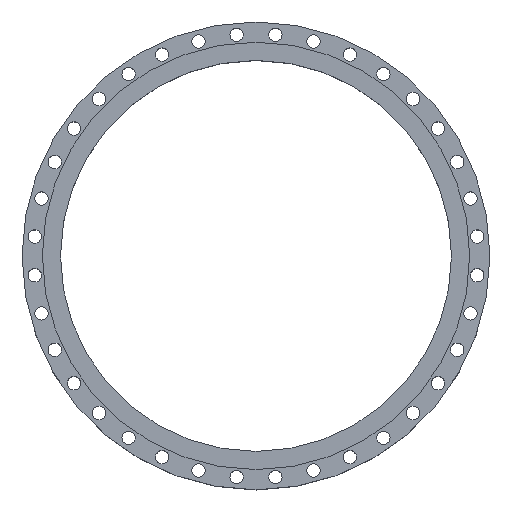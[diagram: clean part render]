
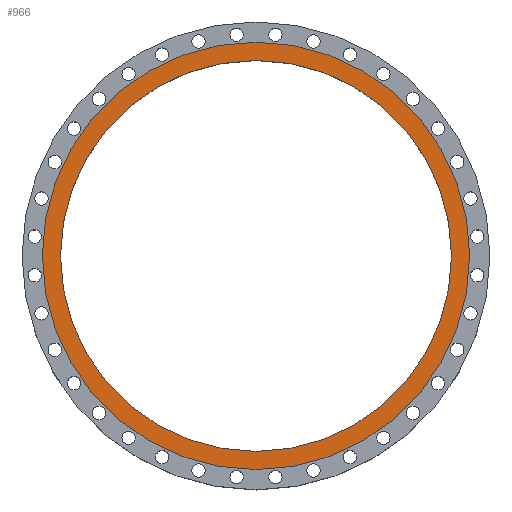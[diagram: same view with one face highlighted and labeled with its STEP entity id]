
A CAD part, top view. The second image highlights one B-rep face of the part: STEP entity #966.
In plain terms, the highlighted planar face has unit normal (0, 0, 1).
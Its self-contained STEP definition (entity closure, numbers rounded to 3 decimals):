
#966=ADVANCED_FACE('',(#2207,#2209),#2211,.T.);
#2207=FACE_BOUND('',#2208,.T.);
#2208=EDGE_LOOP('',(#2668));
#2209=FACE_BOUND('',#2210,.T.);
#2210=EDGE_LOOP('',(#2669));
#2211=PLANE('',#2212);
#2212=AXIS2_PLACEMENT_3D('',#2213,#2214,#2215);
#2213=CARTESIAN_POINT('',(0.,0.,175.));
#2214=DIRECTION('',(0.,0.,1.));
#2215=DIRECTION('',(0.,1.,0.));
#2668=ORIENTED_EDGE('',*,*,#2880,.F.);
#2669=ORIENTED_EDGE('',*,*,#2882,.T.);
#2880=EDGE_CURVE('',#3270,#3270,#3271,.T.);
#2882=EDGE_CURVE('',#3274,#3274,#3275,.T.);
#3270=VERTEX_POINT('',#5440);
#3271=CIRCLE('',#5441,765.);
#3274=VERTEX_POINT('',#5450);
#3275=CIRCLE('',#5451,700.);
#5440=CARTESIAN_POINT('',(0.,765.,175.));
#5441=AXIS2_PLACEMENT_3D('',#5442,#5443,#5444);
#5442=CARTESIAN_POINT('',(0.,0.,175.));
#5443=DIRECTION('',(0.,0.,-1.));
#5444=DIRECTION('',(0.,1.,0.));
#5450=CARTESIAN_POINT('',(0.,700.,175.));
#5451=AXIS2_PLACEMENT_3D('',#5452,#5453,#5454);
#5452=CARTESIAN_POINT('',(0.,0.,175.));
#5453=DIRECTION('',(0.,0.,-1.));
#5454=DIRECTION('',(0.,1.,0.));
